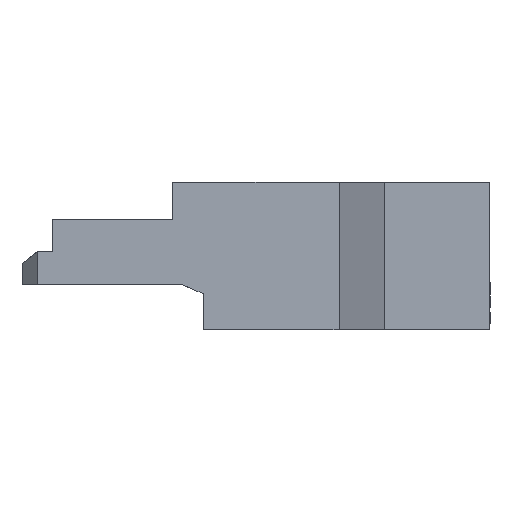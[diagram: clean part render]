
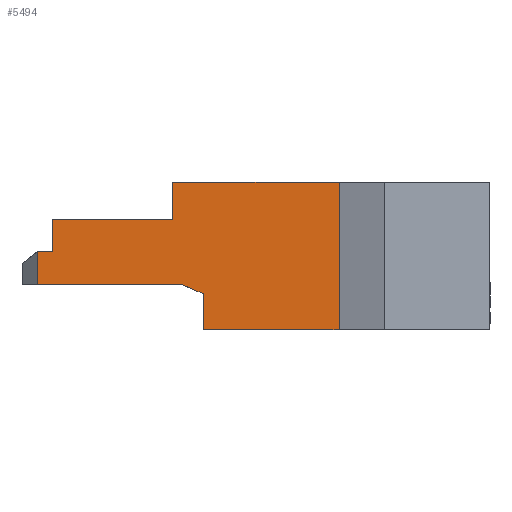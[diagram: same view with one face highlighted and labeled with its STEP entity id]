
A CAD part, left-side view. The second image highlights one B-rep face of the part: STEP entity #5494.
In plain terms, the highlighted planar face has unit normal (-1, 0, 0).
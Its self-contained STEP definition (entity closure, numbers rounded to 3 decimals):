
#131 = CARTESIAN_POINT ( 'NONE',  ( -3.75, 1.1, 0.295 ) ) ;
#134 = CARTESIAN_POINT ( 'NONE',  ( -3.75, 0.137, 0.295 ) ) ;
#136 = CARTESIAN_POINT ( 'NONE',  ( -3.75, -0.9, 0.975 ) ) ;
#141 = CARTESIAN_POINT ( 'NONE',  ( -3.75, -0.9, -0.005 ) ) ;
#143 = CARTESIAN_POINT ( 'NONE',  ( -3.75, 0.2, 0.73 ) ) ;
#241 = CARTESIAN_POINT ( 'NONE',  ( -3.75, 1., 0.73 ) ) ;
#411 = PLANE ( 'NONE',  #9655 ) ;
#412 = CARTESIAN_POINT ( 'NONE',  ( -3.75, 1.2, -0.005 ) ) ;
#417 = DIRECTION ( 'NONE',  ( -1., 0., 0. ) ) ;
#418 = DIRECTION ( 'NONE',  ( 0., 0., -1. ) ) ;
#2293 = CARTESIAN_POINT ( 'NONE',  ( -3.75, 0.16, 0.305 ) ) ;
#2300 = DIRECTION ( 'NONE',  ( 0., 0.916, 0.401 ) ) ;
#2762 = ORIENTED_EDGE ( 'NONE', *, *, #9382, .T. ) ;
#2764 = ORIENTED_EDGE ( 'NONE', *, *, #9014, .F. ) ;
#2766 = ORIENTED_EDGE ( 'NONE', *, *, #9732, .T. ) ;
#2768 = ORIENTED_EDGE ( 'NONE', *, *, #9065, .T. ) ;
#2770 = ORIENTED_EDGE ( 'NONE', *, *, #9149, .T. ) ;
#2772 = ORIENTED_EDGE ( 'NONE', *, *, #9520, .F. ) ;
#2774 = ORIENTED_EDGE ( 'NONE', *, *, #8640, .F. ) ;
#2776 = ORIENTED_EDGE ( 'NONE', *, *, #9327, .F. ) ;
#2778 = ORIENTED_EDGE ( 'NONE', *, *, #9364, .F. ) ;
#2780 = ORIENTED_EDGE ( 'NONE', *, *, #9201, .F. ) ;
#2782 = ORIENTED_EDGE ( 'NONE', *, *, #9153, .T. ) ;
#3922 = CARTESIAN_POINT ( 'NONE',  ( -3.75, 0.2, 0.975 ) ) ;
#4098 = CARTESIAN_POINT ( 'NONE',  ( -3.75, 0., -0.005 ) ) ;
#4115 = CARTESIAN_POINT ( 'NONE',  ( -3.75, 1., 0.515 ) ) ;
#4128 = CARTESIAN_POINT ( 'NONE',  ( -3.75, 0., 0.235 ) ) ;
#4175 = CARTESIAN_POINT ( 'NONE',  ( -3.75, 1.1, 0.515 ) ) ;
#4988 = CARTESIAN_POINT ( 'NONE',  ( -3.75, 1., 0.73 ) ) ;
#5006 = DIRECTION ( 'NONE',  ( 0., -1., 0. ) ) ;
#5111 = CARTESIAN_POINT ( 'NONE',  ( -3.75, 1., 0.515 ) ) ;
#5113 = DIRECTION ( 'NONE',  ( 0., 1., 0. ) ) ;
#5280 = CARTESIAN_POINT ( 'NONE',  ( -3.75, 1.1, -0.005 ) ) ;
#5295 = DIRECTION ( 'NONE',  ( 0., 0., -1. ) ) ;
#5348 = VERTEX_POINT ( 'NONE', #131 ) ;
#5351 = VERTEX_POINT ( 'NONE', #134 ) ;
#5353 = VERTEX_POINT ( 'NONE', #136 ) ;
#5358 = VERTEX_POINT ( 'NONE', #141 ) ;
#5360 = VERTEX_POINT ( 'NONE', #143 ) ;
#5444 = VERTEX_POINT ( 'NONE', #241 ) ;
#5494 = ADVANCED_FACE ( 'NONE', ( #7601 ), #411, .T. ) ;
#6206 = VERTEX_POINT ( 'NONE', #3922 ) ;
#7078 = EDGE_LOOP ( 'NONE', ( #2762, #2764, #2766, #2768, #2770, #2772, #2774, #2776, #2778, #2780, #2782 ) ) ;
#7265 = VERTEX_POINT ( 'NONE', #4098 ) ;
#7282 = VERTEX_POINT ( 'NONE', #4115 ) ;
#7295 = VERTEX_POINT ( 'NONE', #4128 ) ;
#7342 = VERTEX_POINT ( 'NONE', #4175 ) ;
#7601 = FACE_OUTER_BOUND ( 'NONE', #7078, .T. ) ;
#8163 = LINE ( 'NONE', #2293, #8170 ) ;
#8170 = VECTOR ( 'NONE', #2300, 1000. ) ;
#8640 = EDGE_CURVE ( 'NONE', #7295, #5351, #8163, .T. ) ;
#9014 = EDGE_CURVE ( 'NONE', #5444, #5360, #10049, .T. ) ;
#9065 = EDGE_CURVE ( 'NONE', #7282, #7342, #10157, .T. ) ;
#9149 = EDGE_CURVE ( 'NONE', #7342, #5348, #10307, .T. ) ;
#9153 = EDGE_CURVE ( 'NONE', #5353, #6206, #10317, .T. ) ;
#9201 = EDGE_CURVE ( 'NONE', #5353, #5358, #10409, .T. ) ;
#9327 = EDGE_CURVE ( 'NONE', #7265, #7295, #10545, .T. ) ;
#9364 = EDGE_CURVE ( 'NONE', #5358, #7265, #10609, .T. ) ;
#9382 = EDGE_CURVE ( 'NONE', #6206, #5360, #10642, .T. ) ;
#9520 = EDGE_CURVE ( 'NONE', #5351, #5348, #10881, .T. ) ;
#9655 = AXIS2_PLACEMENT_3D ( 'NONE', #412, #417, #418 ) ;
#9732 = EDGE_CURVE ( 'NONE', #5444, #7282, #12131, .T. ) ;
#10049 = LINE ( 'NONE', #4988, #10066 ) ;
#10066 = VECTOR ( 'NONE', #5006, 1000. ) ;
#10157 = LINE ( 'NONE', #5111, #10160 ) ;
#10160 = VECTOR ( 'NONE', #5113, 1000. ) ;
#10307 = LINE ( 'NONE', #5280, #10312 ) ;
#10312 = VECTOR ( 'NONE', #5295, 1000. ) ;
#10317 = LINE ( 'NONE', #10906, #10320 ) ;
#10320 = VECTOR ( 'NONE', #10907, 1000. ) ;
#10409 = LINE ( 'NONE', #11008, #10412 ) ;
#10412 = VECTOR ( 'NONE', #11009, 1000. ) ;
#10545 = LINE ( 'NONE', #11168, #10548 ) ;
#10548 = VECTOR ( 'NONE', #11169, 1000. ) ;
#10609 = LINE ( 'NONE', #11240, #10612 ) ;
#10612 = VECTOR ( 'NONE', #11241, 1000. ) ;
#10642 = LINE ( 'NONE', #11274, #10645 ) ;
#10645 = VECTOR ( 'NONE', #11275, 1000. ) ;
#10881 = LINE ( 'NONE', #11534, #10884 ) ;
#10884 = VECTOR ( 'NONE', #11535, 1000. ) ;
#10906 = CARTESIAN_POINT ( 'NONE',  ( -3.75, 1.2, 0.975 ) ) ;
#10907 = DIRECTION ( 'NONE',  ( 0., 1., 0. ) ) ;
#11008 = CARTESIAN_POINT ( 'NONE',  ( -3.75, -0.9, -0.005 ) ) ;
#11009 = DIRECTION ( 'NONE',  ( 0., 0., -1. ) ) ;
#11168 = CARTESIAN_POINT ( 'NONE',  ( -3.75, 0., 0. ) ) ;
#11169 = DIRECTION ( 'NONE',  ( 0., 0., 1. ) ) ;
#11240 = CARTESIAN_POINT ( 'NONE',  ( -3.75, 1.2, -0.005 ) ) ;
#11241 = DIRECTION ( 'NONE',  ( 0., 1., 0. ) ) ;
#11274 = CARTESIAN_POINT ( 'NONE',  ( -3.75, 0.2, 0.665 ) ) ;
#11275 = DIRECTION ( 'NONE',  ( 0., 0., -1. ) ) ;
#11534 = CARTESIAN_POINT ( 'NONE',  ( -3.75, 1.2, 0.295 ) ) ;
#11535 = DIRECTION ( 'NONE',  ( 0., 1., 0. ) ) ;
#12131 = LINE ( 'NONE', #12289, #12134 ) ;
#12134 = VECTOR ( 'NONE', #12290, 1000. ) ;
#12289 = CARTESIAN_POINT ( 'NONE',  ( -3.75, 1., 0.835 ) ) ;
#12290 = DIRECTION ( 'NONE',  ( 0., 0., -1. ) ) ;
